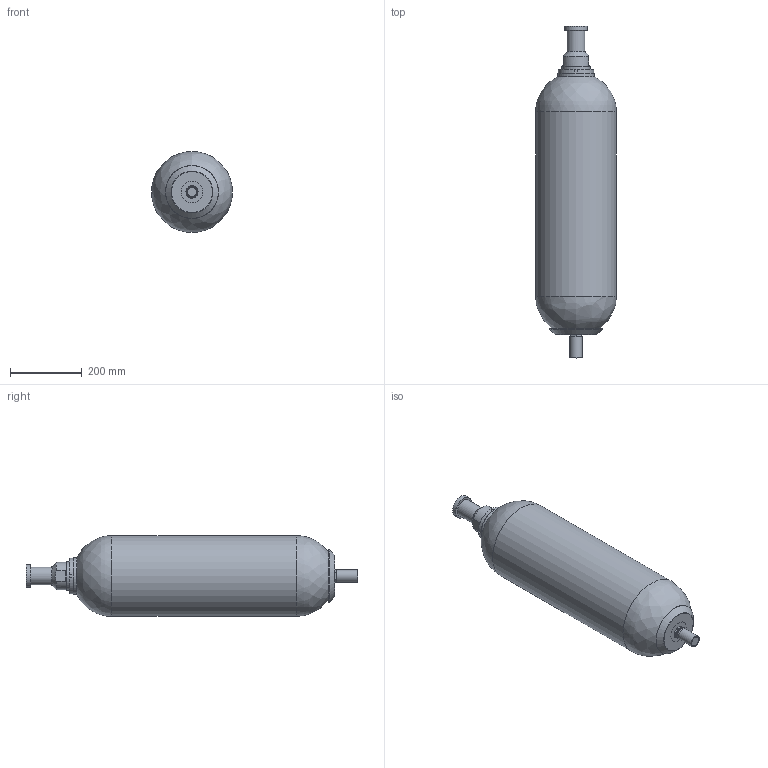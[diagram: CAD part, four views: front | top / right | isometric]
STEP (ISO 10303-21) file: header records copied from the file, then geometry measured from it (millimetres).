
FILE_DESCRIPTION((''),'2;1');
FILE_NAME('F:\STEP\ALLEGE\GAMME_EHVF_350&330&250bar\EHVF_20_330_90.stp','2011-03-04T10:28:15',('laurent.simeon'),(''),'Autodesk Inventor 2011','Autodesk Inventor 2011','');
FILE_SCHEMA(('AUTOMOTIVE_DESIGN { 1 0 10303 214 1 1 1 1 }'));
Length unit declared in the file: millimetre
Products named in the file (43): EHVF_20_330_90; CA108361-00190; PF108368-05200; VA108479-01626; VA108473-01626; VA108439-01600; VA108437-01600; PI108438-01600; RE100758-01200; JT104172-00023; JP102452-00026; ET106134-02600; BOUCHON DE VALVE; BO100759-02600; JP101164-00020; JOINT PLAT; EC102958-00200; BP102851-00200; BOUCHON DE PROTECTION; BOUCHON PLASTIQUE; BC110335-00220; BE105544-00200; EC100990-00200; CA100100-00220; B2100950-00200; ENROBAGE; BM110333-00200; CB110083-00200
Assembly tree (42 placements, depth 5):
  EHVF_20_330_90
    CA108361-00190
      CA108361-00190
    PF108368-05200
      PF108368-05200
    VA108479-01626
      VA108473-01626
        VA108439-01600
          VA108439-01600
        VA108437-01600
          VA108437-01600
        PI108438-01600
          PI108438-01600
        RE100758-01200
          RE100758-01200
        JT104172-00023
          JT104172-00023
        JP102452-00026
          JP102452-00026
        ET106134-02600
          ET106134-02600
      BOUCHON DE VALVE
        BO100759-02600
          BO100759-02600
        JP101164-00020
          JOINT PLAT
    EC102958-00200
      EC102958-00200
    BP102851-00200
      BOUCHON DE PROTECTION
      BOUCHON PLASTIQUE
    BC110335-00220
      BE105544-00200
        BE105544-00200
      EC100990-00200
        EC100990-00200
      CA100100-00220
        B2100950-00200
          B2100950-00200
        ENROBAGE
      BM110333-00200
        CB110083-00200
          CB110083-00200
Bounding box: 226 x 927.2 x 226 mm (x, y, z)
Volume: 6582702.3 mm3; surface area: 1183476 mm2
Topology: 26 solids, 26 shells, 717 faces, 1715 edges, 1055 vertices
Faces by surface type: bspline 209, cylinder 197, plane 165, cone 86, torus 58, sphere 2
Full cylindrical faces by diameter (mm): 0.8 x1, 1.7 x1, 2 x1, 2.2 x1, 3.8 x1, 3.9 x1, 4.6 x1, 6.2 x1, 6.5 x1, 9 x3, 10 x1, 11.1 x1, 11.33 x1, 12 x1, 12.667 x1, 13 x8, 14.46 x1, 15.83 x1, 16 x2, 18 x1, 20 x1, 20.68 x1, 22 x1, 22.5 x1, 25 x1, 28.5 x2, 29.5 x1, 30.05 x1, 31 x1, 33.6 x1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
Entity records: 31350 total; most frequent: CARTESIAN_POINT 15669, ORIENTED_EDGE 3042, DIRECTION 2772, EDGE_CURVE 1521, AXIS2_PLACEMENT_3D 1208, VERTEX_POINT 995, EDGE_LOOP 932, FACE_OUTER_BOUND 716
